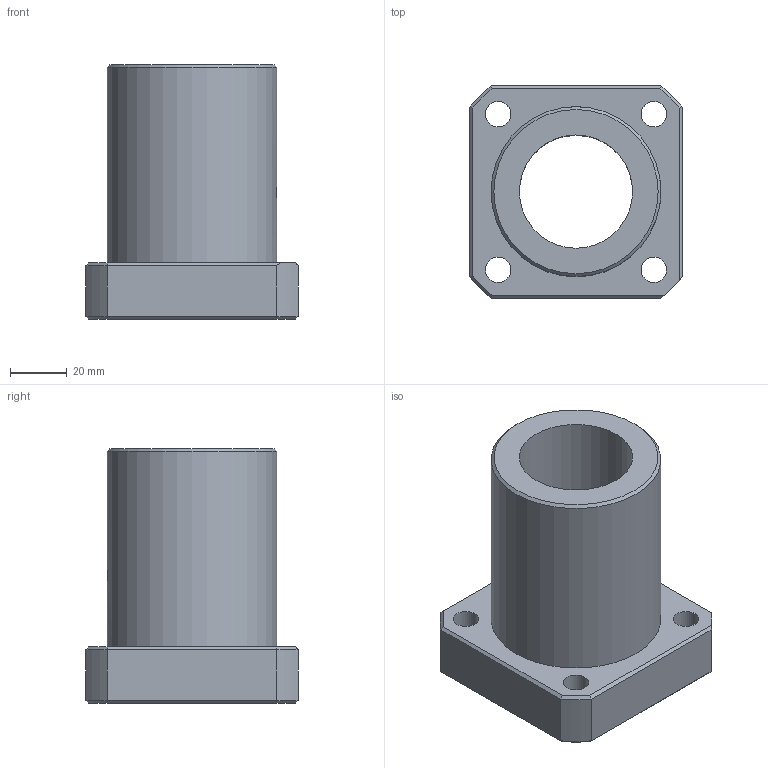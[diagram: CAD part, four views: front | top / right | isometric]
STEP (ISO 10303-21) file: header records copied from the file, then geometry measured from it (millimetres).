
FILE_DESCRIPTION((''),'2;1');
FILE_NAME('D:\製品 (図面)\カタログ用3D\シャフトブロック関連\STEP形式\SFW\SFW40.stp','2010-06-01T16:34:37',('Tsuchiya'),(''),'Autodesk Inventor 10','Autodesk Inventor 10','');
FILE_SCHEMA(('AUTOMOTIVE_DESIGN { 1 0 10303 214 1 1 1 1 }'));
Length unit declared in the file: millimetre
Products named in the file (1): SFW40
Bounding box: 75 x 75 x 90 mm (x, y, z)
Volume: 189582.8 mm3; surface area: 40020.3 mm2
Topology: 1 solids, 1 shells, 52 faces, 128 edges, 82 vertices
Faces by surface type: plane 29, cylinder 10, cone 9, bspline 4
Full cylindrical faces by diameter (mm): 9 x4, 40 x1, 60 x1
Entity records: 1623 total; most frequent: CARTESIAN_POINT 454, DIRECTION 224, ORIENTED_EDGE 222, EDGE_CURVE 111, AXIS2_PLACEMENT_3D 82, EDGE_LOOP 77, VERTEX_POINT 76, VECTOR 60
